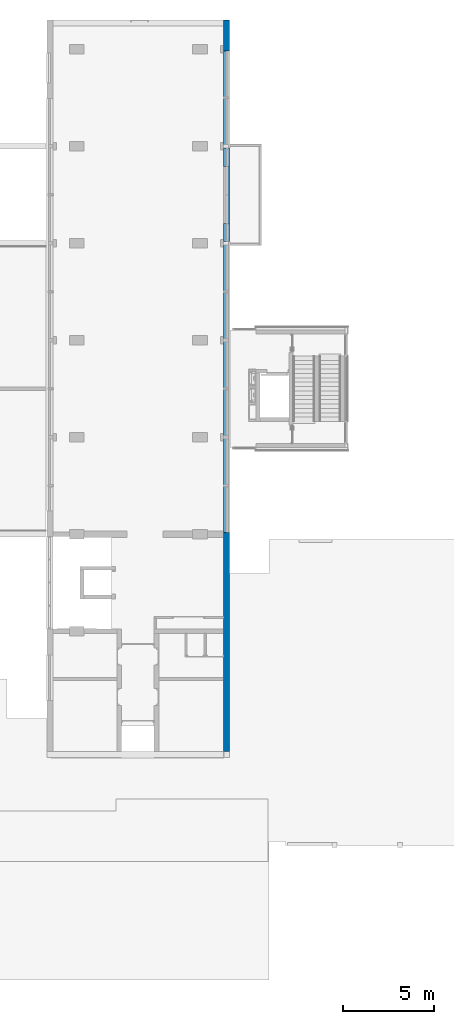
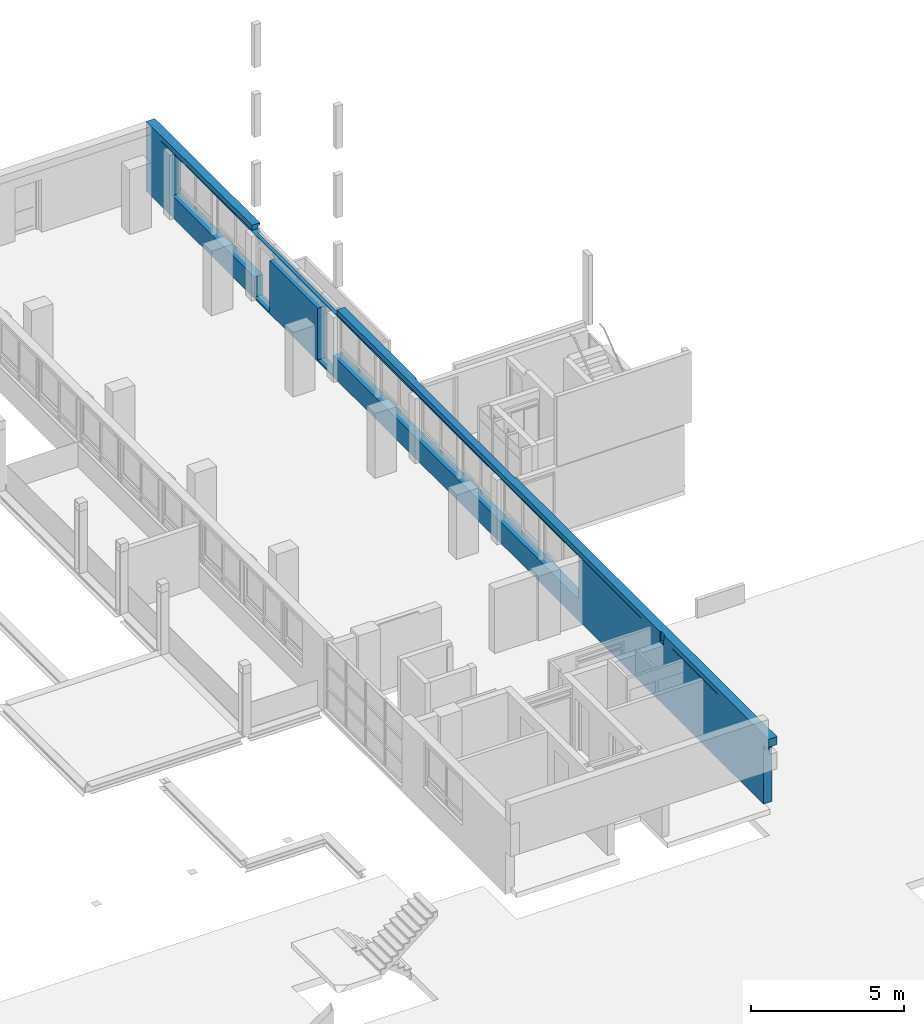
# One storey, part 10 of 22: 1 wall, 12 openings.
"""IFC2X3 building model written with IfcOpenShell, lengths in millimetres."""

from ifc_helpers import new_model, entity, si_unit, converted_unit, derived_unit, money_unit, direction, frame, origin_with_axes, place, context, subcontext, project, spatial, faceted_brep, material, type_object, element, save


model = new_model("IFC2X3")

# Units and contexts
model_context = context("Model", 3, precision=0.01, world=origin_with_axes(), true_north=direction((0.0, 1.0)))
body_context = subcontext(model_context, "Body", "Model", "MODEL_VIEW")
ifc_project = project(units=[si_unit("LENGTHUNIT", "METRE", prefix="MILLI"), si_unit("AREAUNIT", "SQUARE_METRE"), si_unit("VOLUMEUNIT", "CUBIC_METRE"), converted_unit("PLANEANGLEUNIT", "DEGREE", entity("IfcPlaneAngleMeasure", 0.0174532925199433), si_unit("PLANEANGLEUNIT", "RADIAN"), dimensions=[0, 0, 0, 0, 0, 0, 0]), money_unit("EUR"), converted_unit("TIMEUNIT", "Year", entity("IfcTimeMeasure", 31557600.0), si_unit("TIMEUNIT", "SECOND"), dimensions=[0, 0, 1, 0, 0, 0, 0]), si_unit("MASSUNIT", "GRAM", prefix="KILO"), si_unit("THERMODYNAMICTEMPERATUREUNIT", "DEGREE_CELSIUS"), si_unit("LUMINOUSINTENSITYUNIT", "LUMEN"), si_unit("ENERGYUNIT", "JOULE", prefix="MEGA"), derived_unit("THERMALCONDUCTANCEUNIT", [(si_unit("POWERUNIT", "WATT"), 1), (si_unit("LENGTHUNIT", "METRE"), -1), (si_unit("THERMODYNAMICTEMPERATUREUNIT", "KELVIN"), -1)]), derived_unit("SPECIFICHEATCAPACITYUNIT", [(si_unit("ENERGYUNIT", "JOULE"), 1), (si_unit("MASSUNIT", "GRAM", prefix="KILO"), -1), (si_unit("THERMODYNAMICTEMPERATUREUNIT", "KELVIN"), -1)]), derived_unit("MASSDENSITYUNIT", [(si_unit("MASSUNIT", "GRAM", prefix="KILO"), 1), (si_unit("VOLUMEUNIT", "CUBIC_METRE"), -1)])], contexts=[model_context])

# Site, building, storey
site_placement = place(None, origin_with_axes())
site = spatial("IfcSite", under=ifc_project, at=site_placement, Name="Site", CompositionType="ELEMENT")
building_placement = place(site_placement, origin_with_axes())
building = spatial("IfcBuilding", under=site, at=building_placement, Name="Naam gebouw", CompositionType="ELEMENT")
storey_placement = place(building_placement, frame((0.0, 0.0, 8690.0), z_axis=(0.0, 0.0, 1.0), x_axis=(1.0, 0.0, 0.0)))
storey = spatial("IfcBuildingStorey", under=building, at=storey_placement, Name="2e verdieping V", CompositionType="ELEMENT", Elevation=8690.0)

# Wall, openings
ifc_material = material(Name="ALG - CONSTRUCTIEF")
wall_type = type_object("IfcWallType", Name="ALG - CONSTRUCTIEF 330", PredefinedType="NOTDEFINED")
wall_placement = place(storey_placement, frame((29906.0, 56215.91242510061, 0.0), z_axis=(0.0, 0.0, 1.0), x_axis=(0.0, -1.0, 0.0)))
wall = element("IfcWall", 1, at=wall_placement, inside=storey, type_object=wall_type, material=ifc_material, Name="_Wand-x", context=body_context, shape_type="Brep", body=[
    faceted_brep([(1710.000000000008, 330.0000000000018, 2680.0), (1710.000000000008, 329.9999999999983, 2549.999999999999), (1710.000000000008, 330.0000000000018, 855.2898094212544), (1710.000000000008, 330.0000000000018, 853.2589561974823), (1710.000000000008, 329.9999999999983, 849.9999999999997), (7040.000000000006, 330.0000000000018, 849.9999999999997), (7039.999999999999, 329.9999999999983, 50.00000000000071), (8039.999999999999, 329.9999999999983, 50.00000000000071), (8039.999999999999, 329.9999999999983, 2113.022917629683), (11173.48948026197, 329.9999999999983, 2113.022917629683), (11173.48948026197, 329.9999999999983, 50.00000000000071), (12170.00000000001, 329.9999999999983, 50.00000000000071), (12170.00000000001, 329.9999999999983, 849.9999999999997), (28159.99999999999, 329.9999999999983, 849.9999999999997), (28159.99999999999, 329.9999999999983, 853.2589561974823), (28159.99999999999, 329.9999999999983, 855.2898094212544), (28159.99999999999, 329.9999999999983, 2680.0), (23503.99999875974, 329.9999999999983, 2680.0), (23503.99999875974, 329.9999999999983, 2770.000000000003), (40545.00000000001, 329.9999999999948, 2770.000000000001), (40545.00000000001, 329.9999999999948, 2459.999999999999), (30434.49789019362, 329.9999999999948, 2459.999999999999), (30434.49789019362, 329.9999999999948, 2159.999999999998), (40215.00000000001, 329.9999999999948, 2159.999999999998), (40215.00000000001, 329.9999999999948, 0.0), (0.0, 329.9999999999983, 0.0), (0.0, 330.0000000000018, 2770.000000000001), (6840.000000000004, 330.0000000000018, 2770.000000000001), (6840.000000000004, 330.0000000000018, 2680.0), (4325.00000000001, 329.9999999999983, 2680.0), (1710.000000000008, 248.9999999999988, 2680.0), (1710.000000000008, 248.9999999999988, 2549.999999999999), (1710.000000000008, 0.0, 2549.999999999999), (1710.000000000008, 0.0, 849.9999999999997), (1710.000000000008, 260.0000000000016, 865.601844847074), (1710.000000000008, 252.9999999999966, 866.8361337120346), (1710.000000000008, 252.9999999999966, 878.5143329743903), (1710.000000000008, 254.999999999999, 878.5143329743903), (1710.000000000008, 254.999999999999, 868.5143329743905), (1710.000000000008, 260.0000000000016, 867.6326980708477), (7040.000000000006, 0.0, 849.9999999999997), (7039.999999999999, 0.0, 50.00000000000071), (8039.999999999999, 0.0, 50.00000000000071), (8039.999999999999, 0.0, 2113.022917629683), (11173.48948026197, 0.0, 2113.022917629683), (11173.48948026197, 0.0, 50.00000000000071), (12170.00000000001, 0.0, 50.00000000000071), (12170.00000000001, 0.0, 849.9999999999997), (28159.99999999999, 0.0, 849.9999999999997), (28159.99999999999, 252.9999999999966, 878.5143329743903), (28159.99999999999, 252.9999999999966, 866.8361337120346), (28159.99999999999, 259.999999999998, 865.6018448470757), (28159.99999999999, 0.0, 2549.999999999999), (28159.99999999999, 248.9999999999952, 2549.999999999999), (28159.99999999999, 248.9999999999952, 2680.0), (28159.99999999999, 259.999999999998, 867.6326980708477), (28159.99999999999, 254.999999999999, 868.5143329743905), (28159.99999999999, 254.999999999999, 878.5143329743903), (12370.0, 248.9999999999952, 2680.0), (12370.0, 329.9999999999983, 2680.0), (17035.99999876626, 329.9999999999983, 2680.0), (17035.99999876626, 285.0000000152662, 2680.0), (23503.99999875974, 285.00000004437, 2680.0), (23503.99999875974, 285.00000004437, 2770.000000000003), (33714.99999999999, 39.00000000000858, 2770.000000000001), (33714.99999999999, 9.10396839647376, 2770.000000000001), (40214.99999999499, 0.0, 2770.000000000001), (40545.00000000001, 0.0, 2770.000000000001), (17035.99999876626, 285.0000000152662, 2770.000000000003), (17035.99999876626, 329.9999999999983, 2770.000000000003), (12370.0, 329.9999999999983, 2770.000000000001), (12370.0, 39.00000000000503, 2770.000000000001), (33464.99999999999, 9.454121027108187, 2770.000000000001), (33464.99999999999, 39.00000000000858, 2770.000000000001), (40545.00000000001, 0.0, 2360.000000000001), (40545.00000000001, 39.00000000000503, 2360.000000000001), (40545.00000000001, 39.00000000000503, 2459.999999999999), (33464.99999999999, 39.00000000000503, 2459.999999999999), (30434.49789019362, 39.00000000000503, 2459.999999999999), (33714.99999999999, 39.00000000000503, 2459.999999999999), (30434.49789019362, 39.00000000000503, 2159.999999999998), (40215.00000000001, 39.00000000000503, 2159.999999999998), (40215.00000000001, 39.00000000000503, 2360.000000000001), (40215.00000000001, 0.0, 2360.000000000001), (40215.00000000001, 0.0, 0.0), (0.0, 0.0, 0.0), (0.0, 0.0, 2770.000000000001), (329.9999999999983, 0.0, 2770.000000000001), (6840.000000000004, 39.00000000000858, 2770.000000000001), (6840.000000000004, 39.00000000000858, 2570.000000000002), (6840.000000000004, 248.9999999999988, 2570.000000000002), (6840.000000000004, 248.9999999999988, 2680.0), (4325.00000000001, 248.9999999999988, 2549.999999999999), (7040.000000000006, 248.9999999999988, 2570.000000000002), (7040.000000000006, 248.9999999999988, 2549.999999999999), (7040.000000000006, 138.9999999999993, 2549.999999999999), (8039.999999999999, 138.9999999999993, 2550.000000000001), (8039.999999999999, 0.0, 2550.000000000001), (40214.9999999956, 0.0, 2570.000000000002), (33714.99999999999, 0.0, 2570.000000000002), (33714.99999999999, 0.0, 2360.000000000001), (33464.99999999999, 0.0, 2360.000000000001), (33464.99999999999, 0.0, 2570.000000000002), (329.9999999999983, 0.0, 2570.000000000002), (8039.999999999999, 0.0, 2551.246089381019), (11173.48948026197, 0.0, 2551.246089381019), (11173.48948026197, 0.0, 2550.000000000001), (12170.00000000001, 248.9999999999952, 2549.999999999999), (11173.48948026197, 138.9999999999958, 2550.000000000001), (12170.00000000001, 138.9999999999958, 2549.999999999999), (12170.00000000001, 248.9999999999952, 2570.000000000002), (12370.0, 248.9999999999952, 2570.000000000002), (12370.0, 39.00000000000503, 2570.000000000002), (33714.99999999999, 39.00000000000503, 2360.000000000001), (33714.99999999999, 9.10396839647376, 2570.000000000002), (33464.99999999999, 9.454121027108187, 2570.000000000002), (33464.99999999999, 39.00000000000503, 2360.000000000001), (12170.00000000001, 138.9999999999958, 2570.000000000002), (7039.999999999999, 138.9999999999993, 2570.000000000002), (11173.48948026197, 138.9999999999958, 2551.246089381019), (8039.999999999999, 138.9999999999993, 2551.246089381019)], [[[0, 1, 2, 3, 4, 5, 6, 7, 8, 9, 10, 11, 12, 13, 14, 15, 16, 17, 18, 19, 20, 21, 22, 23, 24, 25, 26, 27, 28, 29]], [[1, 0, 30, 31, 32, 33, 4, 3, 34, 35, 36, 37, 38, 39, 2]], [[38, 37, 36, 35, 34, 3, 2, 39]], [[5, 4, 33, 40]], [[40, 41, 6, 5]], [[41, 42, 7, 6]], [[42, 43, 8, 7]], [[9, 8, 43, 44]], [[45, 10, 9, 44]], [[11, 10, 45, 46]], [[46, 47, 12, 11]], [[48, 13, 12, 47]], [[49, 50, 51, 14, 13, 48, 52, 53, 54, 16, 15, 55, 56, 57]], [[49, 57, 56, 55, 15, 14, 51, 50]], [[16, 54, 58, 59, 60, 61, 62, 17]], [[63, 18, 17, 62]], [[64, 65, 66, 67, 19, 18, 63, 68, 69, 70, 71, 72, 73]], [[74, 75, 76, 20, 19, 67]], [[77, 78, 21, 20, 76, 79]], [[78, 80, 22, 21]], [[80, 81, 23, 22]], [[24, 23, 81, 82, 83, 84]], [[84, 85, 25, 24]], [[26, 25, 85, 86]], [[87, 88, 27, 26, 86]], [[88, 89, 90, 91, 28, 27]], [[30, 0, 29, 28, 91]], [[92, 31, 30, 91, 90, 93, 94]], [[31, 92, 94, 95, 96, 97, 32]], [[86, 85, 84, 83, 74, 67, 66, 98, 99, 100, 101, 102, 103, 87], [40, 33, 32, 97, 104, 105, 106, 52, 48, 47, 46, 45, 44, 43, 42, 41]], [[107, 53, 52, 106, 108, 109]], [[107, 110, 111, 58, 54, 53]], [[58, 111, 112, 71, 70, 59]], [[69, 60, 59, 70]], [[60, 69, 68, 61]], [[68, 63, 62, 61]], [[65, 64, 79, 113, 100, 99, 114]], [[114, 98, 66, 65]], [[112, 115, 72, 71]], [[101, 116, 77, 73, 72, 115, 102]], [[64, 73, 77, 79]], [[74, 83, 82, 75]], [[77, 116, 113, 79, 76, 75, 82, 81, 80, 78]], [[103, 89, 88, 87]], [[89, 103, 102, 115, 112, 111, 110, 117, 118, 93, 90]], [[95, 94, 93, 118]], [[119, 120, 96, 95, 118, 117, 109, 108]], [[97, 96, 120, 104]], [[99, 98, 114]], [[101, 100, 113, 116]], [[119, 105, 104, 120]], [[108, 106, 105, 119]], [[109, 117, 110, 107]]]),
])
opening_1_placement = place(wall_placement, frame((11671.74474013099, 0.0, 50.00000000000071), z_axis=(0.0, 0.0, 1.0), x_axis=(1.0, 0.0, 0.0)))
element("IfcOpeningElement", 2, at=opening_1_placement, cuts=wall, Name="_Merk-x", context=body_context, shape_type="Brep", body=[
    faceted_brep([(-498.2552598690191, 259.999999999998, 2500.0), (-498.2552598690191, 330.9999999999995, 2500.0), (-498.2552598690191, 330.9999999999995, 0.0), (-498.2552598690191, 259.999999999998, 0.0), (-498.2552598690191, 138.9999999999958, 2500.0), (-498.2552598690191, 138.9999999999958, 2630.000000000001), (-498.2552598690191, 330.9999999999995, 2630.000000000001), (498.2552598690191, 330.9999999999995, 2500.0), (498.2552598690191, 330.9999999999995, 0.0), (498.2552598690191, 330.9999999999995, 2630.000000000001), (498.2552598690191, 259.999999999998, 0.0), (498.2552598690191, -1.000000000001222, 0.0), (-498.2552598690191, -1.000000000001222, 0.0), (-498.2552598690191, -1.000000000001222, 2500.0), (498.2552598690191, 138.9999999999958, 2500.0), (498.2552598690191, 138.9999999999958, 2630.000000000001), (498.2552598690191, 259.999999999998, 2500.0), (498.2552598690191, -1.000000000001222, 2500.0)], [[[0, 1, 2, 3]], [[1, 0, 4, 5, 6]], [[7, 8, 2, 1, 6, 9]], [[3, 2, 8, 10, 11, 12]], [[4, 0, 3, 12, 13]], [[4, 14, 15, 5]], [[5, 15, 9, 6]], [[7, 16, 10, 8]], [[16, 7, 9, 15, 14]], [[16, 14, 17, 11, 10]], [[13, 12, 11, 17]], [[14, 4, 13, 17]]]),
])
opening_2_placement = place(wall_placement, frame((8823.411758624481, 0.0, 2113.022917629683), z_axis=(0.0, 0.0, 1.0), x_axis=(1.0, 0.0, 0.0)))
element("IfcOpeningElement", 3, at=opening_2_placement, cuts=wall, Name="_Merk-x", context=body_context, shape_type="Brep", body=[
    faceted_brep([(-783.4117586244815, 260.0000000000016, 438.2231717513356), (-783.4117586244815, 330.9999999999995, 438.2231717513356), (-783.4117586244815, 330.9999999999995, 0.0), (-783.4117586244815, 260.0000000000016, 0.0), (-783.4117586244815, 138.9999999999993, 438.2231717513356), (-783.4117586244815, 138.9999999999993, 568.2231717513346), (-783.4117586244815, 330.9999999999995, 568.2231717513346), (783.4117586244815, 330.9999999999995, 438.2231717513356), (783.4117586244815, 330.9999999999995, 0.0), (783.4117586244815, 330.9999999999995, 568.2231717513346), (783.4117586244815, 260.0000000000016, 0.0), (783.4117586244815, -1.000000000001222, 0.0), (-783.4117586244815, -1.000000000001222, 0.0), (-783.4117586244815, -1.000000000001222, 438.2231717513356), (783.4117586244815, 138.9999999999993, 438.2231717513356), (783.4117586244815, 138.9999999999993, 568.2231717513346), (783.4117586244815, 260.0000000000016, 438.2231717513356), (783.4117586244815, -1.000000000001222, 438.2231717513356)], [[[0, 1, 2, 3]], [[1, 0, 4, 5, 6]], [[7, 8, 2, 1, 6, 9]], [[3, 2, 8, 10, 11, 12]], [[4, 0, 3, 12, 13]], [[4, 14, 15, 5]], [[5, 15, 9, 6]], [[7, 16, 10, 8]], [[16, 7, 9, 15, 14]], [[16, 14, 17, 11, 10]], [[13, 12, 11, 17]], [[14, 4, 13, 17]]]),
])
opening_3_placement = place(wall_placement, frame((7539.999999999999, 0.0, 50.00000000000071), z_axis=(0.0, 0.0, 1.0), x_axis=(1.0, 0.0, 0.0)))
element("IfcOpeningElement", 4, at=opening_3_placement, cuts=wall, Name="_Merk-x", context=body_context, shape_type="Brep", body=[
    faceted_brep([(-500.0, 260.0000000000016, 2500.0), (-500.0, 330.9999999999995, 2500.0), (-500.0, 330.9999999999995, 0.0), (-500.0, 260.0000000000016, 0.0), (-500.0, 138.9999999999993, 2500.0), (-500.0, 138.9999999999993, 2630.000000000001), (-500.0, 330.9999999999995, 2630.000000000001), (500.0, 330.9999999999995, 2500.0), (500.0, 330.9999999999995, 0.0), (500.0, 330.9999999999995, 2630.000000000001), (500.0, 260.0000000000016, 0.0), (500.0, -1.000000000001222, 0.0), (-500.0, -1.000000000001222, 0.0), (-500.0, -1.000000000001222, 2500.0), (500.0, 138.9999999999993, 2500.0), (500.0, 138.9999999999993, 2630.000000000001), (500.0, 260.0000000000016, 2500.0), (500.0, -1.000000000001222, 2500.0)], [[[0, 1, 2, 3]], [[1, 0, 4, 5, 6]], [[7, 8, 2, 1, 6, 9]], [[3, 2, 8, 10, 11, 12]], [[4, 0, 3, 12, 13]], [[4, 14, 15, 5]], [[5, 15, 9, 6]], [[7, 16, 10, 8]], [[16, 7, 9, 15, 14]], [[16, 14, 17, 11, 10]], [[13, 12, 11, 17]], [[14, 4, 13, 17]]]),
])
opening_4_placement = place(wall_placement, frame((26902.49999999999, 0.0, 849.9999999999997), z_axis=(0.0, 0.0, 1.0), x_axis=(1.0, 0.0, 0.0)))
element("IfcOpeningElement", 5, at=opening_4_placement, cuts=wall, Name="_Merk-x", context=body_context, shape_type="Brep", body=[
    faceted_brep([(-1357.500000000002, 259.999999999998, 1699.999999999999), (-1357.500000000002, 330.9999999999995, 1699.999999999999), (-1357.500000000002, 330.9999999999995, 0.0), (-1357.500000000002, 259.999999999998, 0.0), (-1357.500000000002, 248.9999999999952, 1699.999999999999), (-1357.500000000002, 248.9999999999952, 1830.0), (-1357.500000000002, 330.9999999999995, 1830.0), (1257.5, 330.9999999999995, 1699.999999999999), (1257.5, 330.9999999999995, 0.0), (1257.5, 330.9999999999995, 1830.0), (1257.5, 259.999999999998, 0.0), (1257.5, -1.000000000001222, 0.0), (-1357.500000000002, -1.000000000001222, 0.0), (-1357.500000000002, -1.000000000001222, 1699.999999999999), (1257.5, 248.9999999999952, 1699.999999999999), (1257.5, 248.9999999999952, 1830.0), (1257.5, 259.999999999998, 1699.999999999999), (1257.5, -1.000000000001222, 1699.999999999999)], [[[0, 1, 2, 3]], [[1, 0, 4, 5, 6]], [[7, 8, 2, 1, 6, 9]], [[3, 2, 8, 10, 11, 12]], [[4, 0, 3, 12, 13]], [[4, 14, 15, 5]], [[5, 15, 9, 6]], [[7, 16, 10, 8]], [[16, 7, 9, 15, 14]], [[16, 14, 17, 11, 10]], [[13, 12, 11, 17]], [[14, 4, 13, 17]]]),
])
opening_5_placement = place(wall_placement, frame((10390.07772163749, 0.0, 2113.022917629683), z_axis=(0.0, 0.0, 1.0), x_axis=(1.0, 0.0, 0.0)))
element("IfcOpeningElement", 6, at=opening_5_placement, cuts=wall, Name="_Merk-x", context=body_context, shape_type="Brep", body=[
    faceted_brep([(-783.4117586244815, 259.999999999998, 438.2231717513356), (-783.4117586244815, 330.9999999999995, 438.2231717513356), (-783.4117586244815, 330.9999999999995, 0.0), (-783.4117586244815, 259.999999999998, 0.0), (-783.4117586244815, 138.9999999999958, 438.2231717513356), (-783.4117586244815, 138.9999999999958, 568.2231717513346), (-783.4117586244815, 330.9999999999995, 568.2231717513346), (783.4117586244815, 330.9999999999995, 438.2231717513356), (783.4117586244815, 330.9999999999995, 0.0), (783.4117586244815, 330.9999999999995, 568.2231717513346), (783.4117586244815, 259.999999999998, 0.0), (783.4117586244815, -1.000000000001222, 0.0), (-783.4117586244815, -1.000000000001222, 0.0), (-783.4117586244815, -1.000000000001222, 438.2231717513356), (783.4117586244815, 138.9999999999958, 438.2231717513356), (783.4117586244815, 138.9999999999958, 568.2231717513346), (783.4117586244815, 259.999999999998, 438.2231717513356), (783.4117586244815, -1.000000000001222, 438.2231717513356)], [[[0, 1, 2, 3]], [[1, 0, 4, 5, 6]], [[7, 8, 2, 1, 6, 9]], [[3, 2, 8, 10, 11, 12]], [[4, 0, 3, 12, 13]], [[4, 14, 15, 5]], [[5, 15, 9, 6]], [[7, 16, 10, 8]], [[16, 7, 9, 15, 14]], [[16, 14, 17, 11, 10]], [[13, 12, 11, 17]], [[14, 4, 13, 17]]]),
])
opening_6_placement = place(wall_placement, frame((21572.5, 0.0, 849.9999999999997), z_axis=(0.0, 0.0, 1.0), x_axis=(1.0, 0.0, 0.0)))
element("IfcOpeningElement", 7, at=opening_6_placement, cuts=wall, Name="_Merk-x", context=body_context, shape_type="Brep", body=[
    faceted_brep([(-1357.500000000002, 259.999999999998, 1699.999999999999), (-1357.500000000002, 330.9999999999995, 1699.999999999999), (-1357.500000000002, 330.9999999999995, 0.0), (-1357.500000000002, 259.999999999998, 0.0), (-1357.500000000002, 248.9999999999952, 1699.999999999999), (-1357.500000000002, 248.9999999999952, 1830.0), (-1357.500000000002, 330.9999999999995, 1830.0), (1257.5, 330.9999999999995, 1699.999999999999), (1257.5, 330.9999999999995, 0.0), (1257.5, 330.9999999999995, 1830.0), (1257.5, 259.999999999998, 0.0), (1257.5, -1.000000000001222, 0.0), (-1357.500000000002, -1.000000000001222, 0.0), (-1357.500000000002, -1.000000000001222, 1699.999999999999), (1257.5, 248.9999999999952, 1699.999999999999), (1257.5, 248.9999999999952, 1830.0), (1257.5, 259.999999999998, 1699.999999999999), (1257.5, -1.000000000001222, 1699.999999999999)], [[[0, 1, 2, 3]], [[1, 0, 4, 5, 6]], [[7, 8, 2, 1, 6, 9]], [[3, 2, 8, 10, 11, 12]], [[4, 0, 3, 12, 13]], [[4, 14, 15, 5]], [[5, 15, 9, 6]], [[7, 16, 10, 8]], [[16, 7, 9, 15, 14]], [[16, 14, 17, 11, 10]], [[13, 12, 11, 17]], [[14, 4, 13, 17]]]),
])
opening_7_placement = place(wall_placement, frame((18957.5, 0.0, 849.9999999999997), z_axis=(0.0, 0.0, 1.0), x_axis=(1.0, 0.0, 0.0)))
element("IfcOpeningElement", 8, at=opening_7_placement, cuts=wall, Name="_Merk-x", context=body_context, shape_type="Brep", body=[
    faceted_brep([(-1457.500000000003, 259.999999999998, 1699.999999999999), (-1457.500000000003, 330.9999999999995, 1699.999999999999), (-1457.500000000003, 330.9999999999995, 0.0), (-1457.500000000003, 259.999999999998, 0.0), (-1457.500000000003, 248.9999999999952, 1699.999999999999), (-1457.500000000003, 248.9999999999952, 1830.0), (-1457.500000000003, 330.9999999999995, 1830.0), (1257.5, 330.9999999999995, 1699.999999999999), (1257.5, 330.9999999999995, 0.0), (1257.5, 330.9999999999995, 1830.0), (1257.5, 259.999999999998, 0.0), (1257.5, -1.000000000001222, 0.0), (-1457.500000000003, -1.000000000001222, 0.0), (-1457.500000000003, -1.000000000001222, 1699.999999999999), (1257.5, 248.9999999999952, 1699.999999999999), (1257.5, 248.9999999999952, 1830.0), (1257.5, 259.999999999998, 1699.999999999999), (1257.5, -1.000000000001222, 1699.999999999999)], [[[0, 1, 2, 3]], [[1, 0, 4, 5, 6]], [[7, 8, 2, 1, 6, 9]], [[3, 2, 8, 10, 11, 12]], [[4, 0, 3, 12, 13]], [[4, 14, 15, 5]], [[5, 15, 9, 6]], [[7, 16, 10, 8]], [[16, 7, 9, 15, 14]], [[16, 14, 17, 11, 10]], [[13, 12, 11, 17]], [[14, 4, 13, 17]]]),
])
opening_8_placement = place(wall_placement, frame((16242.50000000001, 0.0, 849.9999999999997), z_axis=(0.0, 0.0, 1.0), x_axis=(1.0, 0.0, 0.0)))
element("IfcOpeningElement", 9, at=opening_8_placement, cuts=wall, Name="_Merk-x", context=body_context, shape_type="Brep", body=[
    faceted_brep([(-1357.500000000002, 259.999999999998, 1699.999999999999), (-1357.500000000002, 330.9999999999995, 1699.999999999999), (-1357.500000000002, 330.9999999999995, 0.0), (-1357.500000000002, 259.999999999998, 0.0), (-1357.500000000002, 248.9999999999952, 1699.999999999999), (-1357.500000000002, 248.9999999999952, 1830.0), (-1357.500000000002, 330.9999999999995, 1830.0), (1257.5, 330.9999999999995, 1699.999999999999), (1257.5, 330.9999999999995, 0.0), (1257.5, 330.9999999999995, 1830.0), (1257.5, 259.999999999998, 0.0), (1257.5, -1.000000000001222, 0.0), (-1357.500000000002, -1.000000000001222, 0.0), (-1357.500000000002, -1.000000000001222, 1699.999999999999), (1257.5, 248.9999999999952, 1699.999999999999), (1257.5, 248.9999999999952, 1830.0), (1257.5, 259.999999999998, 1699.999999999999), (1257.5, -1.000000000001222, 1699.999999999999)], [[[0, 1, 2, 3]], [[1, 0, 4, 5, 6]], [[7, 8, 2, 1, 6, 9]], [[3, 2, 8, 10, 11, 12]], [[4, 0, 3, 12, 13]], [[4, 14, 15, 5]], [[5, 15, 9, 6]], [[7, 16, 10, 8]], [[16, 7, 9, 15, 14]], [[16, 14, 17, 11, 10]], [[13, 12, 11, 17]], [[14, 4, 13, 17]]]),
])
opening_9_placement = place(wall_placement, frame((13627.50000000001, 0.0, 849.9999999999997), z_axis=(0.0, 0.0, 1.0), x_axis=(1.0, 0.0, 0.0)))
element("IfcOpeningElement", 10, at=opening_9_placement, cuts=wall, Name="_Merk-x", context=body_context, shape_type="Brep", body=[
    faceted_brep([(-1457.500000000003, 259.999999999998, 1699.999999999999), (-1457.500000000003, 330.9999999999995, 1699.999999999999), (-1457.500000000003, 330.9999999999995, 0.0), (-1457.500000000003, 259.999999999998, 0.0), (-1457.500000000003, 248.9999999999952, 1699.999999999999), (-1457.500000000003, 248.9999999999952, 1830.0), (-1457.500000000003, 330.9999999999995, 1830.0), (1257.5, 330.9999999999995, 1699.999999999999), (1257.5, 330.9999999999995, 0.0), (1257.5, 330.9999999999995, 1830.0), (1257.5, 259.999999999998, 0.0), (1257.5, -1.000000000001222, 0.0), (-1457.500000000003, -1.000000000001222, 0.0), (-1457.500000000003, -1.000000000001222, 1699.999999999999), (1257.5, 248.9999999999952, 1699.999999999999), (1257.5, 248.9999999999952, 1830.0), (1257.5, 259.999999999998, 1699.999999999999), (1257.5, -1.000000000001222, 1699.999999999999)], [[[0, 1, 2, 3]], [[1, 0, 4, 5, 6]], [[7, 8, 2, 1, 6, 9]], [[3, 2, 8, 10, 11, 12]], [[4, 0, 3, 12, 13]], [[4, 14, 15, 5]], [[5, 15, 9, 6]], [[7, 16, 10, 8]], [[16, 7, 9, 15, 14]], [[16, 14, 17, 11, 10]], [[13, 12, 11, 17]], [[14, 4, 13, 17]]]),
])
opening_10_placement = place(wall_placement, frame((5582.500000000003, 0.0, 849.9999999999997), z_axis=(0.0, 0.0, 1.0), x_axis=(1.0, 0.0, 0.0)))
element("IfcOpeningElement", 11, at=opening_10_placement, cuts=wall, Name="_Merk-x", context=body_context, shape_type="Brep", body=[
    faceted_brep([(-1257.5, 260.0000000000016, 1699.999999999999), (-1257.5, 330.9999999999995, 1699.999999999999), (-1257.5, 330.9999999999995, 0.0), (-1257.5, 260.0000000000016, 0.0), (-1257.5, 248.9999999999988, 1699.999999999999), (-1257.5, 248.9999999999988, 1830.0), (-1257.5, 330.9999999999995, 1830.0), (1457.500000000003, 330.9999999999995, 1699.999999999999), (1457.500000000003, 330.9999999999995, 0.0), (1457.500000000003, 330.9999999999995, 1830.0), (1457.500000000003, 260.0000000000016, 0.0), (1457.500000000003, -1.000000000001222, 0.0), (-1257.5, -1.000000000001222, 0.0), (-1257.5, -1.000000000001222, 1699.999999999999), (1457.500000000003, 248.9999999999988, 1699.999999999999), (1457.500000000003, 248.9999999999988, 1830.0), (1457.500000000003, 260.0000000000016, 1699.999999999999), (1457.500000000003, -1.000000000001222, 1699.999999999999)], [[[0, 1, 2, 3]], [[1, 0, 4, 5, 6]], [[7, 8, 2, 1, 6, 9]], [[3, 2, 8, 10, 11, 12]], [[4, 0, 3, 12, 13]], [[4, 14, 15, 5]], [[5, 15, 9, 6]], [[7, 16, 10, 8]], [[16, 7, 9, 15, 14]], [[16, 14, 17, 11, 10]], [[13, 12, 11, 17]], [[14, 4, 13, 17]]]),
])
opening_11_placement = place(wall_placement, frame((2967.500000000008, 0.0, 849.9999999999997), z_axis=(0.0, 0.0, 1.0), x_axis=(1.0, 0.0, 0.0)))
element("IfcOpeningElement", 12, at=opening_11_placement, cuts=wall, Name="_Merk-x", context=body_context, shape_type="Brep", body=[
    faceted_brep([(-1257.5, 260.0000000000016, 1699.999999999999), (-1257.5, 330.9999999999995, 1699.999999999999), (-1257.5, 330.9999999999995, 0.0), (-1257.5, 260.0000000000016, 0.0), (-1257.5, 248.9999999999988, 1699.999999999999), (-1257.5, 248.9999999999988, 1830.0), (-1257.5, 330.9999999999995, 1830.0), (1357.500000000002, 330.9999999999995, 1699.999999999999), (1357.500000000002, 330.9999999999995, 0.0), (1357.500000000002, 330.9999999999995, 1830.0), (1357.500000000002, 260.0000000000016, 0.0), (1357.500000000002, -1.000000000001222, 0.0), (-1257.5, -1.000000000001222, 0.0), (-1257.5, -1.000000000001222, 1699.999999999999), (1357.500000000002, 248.9999999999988, 1699.999999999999), (1357.500000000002, 248.9999999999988, 1830.0), (1357.500000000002, 260.0000000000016, 1699.999999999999), (1357.500000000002, -1.000000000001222, 1699.999999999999)], [[[0, 1, 2, 3]], [[1, 0, 4, 5, 6]], [[7, 8, 2, 1, 6, 9]], [[3, 2, 8, 10, 11, 12]], [[4, 0, 3, 12, 13]], [[4, 14, 15, 5]], [[5, 15, 9, 6]], [[7, 16, 10, 8]], [[16, 7, 9, 15, 14]], [[16, 14, 17, 11, 10]], [[13, 12, 11, 17]], [[14, 4, 13, 17]]]),
])
opening_12_placement = place(wall_placement, frame((24287.49999999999, 0.0, 849.9999999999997), z_axis=(0.0, 0.0, 1.0), x_axis=(1.0, 0.0, 0.0)))
element("IfcOpeningElement", 13, at=opening_12_placement, cuts=wall, Name="_Merk-x", context=body_context, shape_type="Brep", body=[
    faceted_brep([(-1457.500000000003, 259.999999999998, 1699.999999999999), (-1457.500000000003, 330.9999999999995, 1699.999999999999), (-1457.500000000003, 330.9999999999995, 0.0), (-1457.500000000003, 259.999999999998, 0.0), (-1457.500000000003, 248.9999999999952, 1699.999999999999), (-1457.500000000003, 248.9999999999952, 1830.0), (-1457.500000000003, 330.9999999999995, 1830.0), (1257.5, 330.9999999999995, 1699.999999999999), (1257.5, 330.9999999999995, 0.0), (1257.5, 330.9999999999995, 1830.0), (1257.5, 259.999999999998, 0.0), (1257.5, -1.000000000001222, 0.0), (-1457.500000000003, -1.000000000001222, 0.0), (-1457.500000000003, -1.000000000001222, 1699.999999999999), (1257.5, 248.9999999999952, 1699.999999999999), (1257.5, 248.9999999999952, 1830.0), (1257.5, 259.999999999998, 1699.999999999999), (1257.5, -1.000000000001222, 1699.999999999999)], [[[0, 1, 2, 3]], [[1, 0, 4, 5, 6]], [[7, 8, 2, 1, 6, 9]], [[3, 2, 8, 10, 11, 12]], [[4, 0, 3, 12, 13]], [[4, 14, 15, 5]], [[5, 15, 9, 6]], [[7, 16, 10, 8]], [[16, 7, 9, 15, 14]], [[16, 14, 17, 11, 10]], [[13, 12, 11, 17]], [[14, 4, 13, 17]]]),
])

save(model, "model.ifc")
